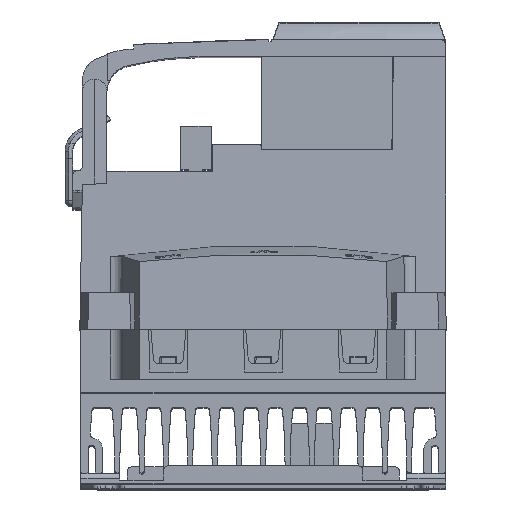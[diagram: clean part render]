
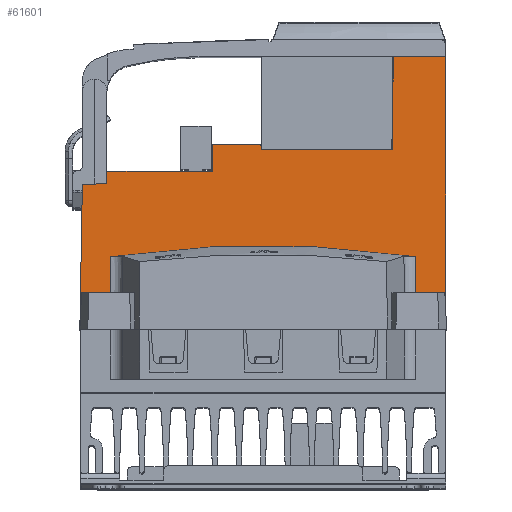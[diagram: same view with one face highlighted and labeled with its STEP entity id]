
A CAD part, top view. The second image highlights one B-rep face of the part: STEP entity #61601.
In plain terms, the highlighted planar face has unit normal (0, 0.018, 1).
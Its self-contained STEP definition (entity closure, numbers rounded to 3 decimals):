
#2428 = CARTESIAN_POINT ( 'NONE',  ( 0., -370.072, 131.297 ) ) ;
#2430 = DIRECTION ( 'NONE',  ( 0., -0.017, -1. ) ) ;
#2431 = DIRECTION ( 'NONE',  ( 0., -1., 0.017 ) ) ;
#33104 = AXIS2_PLACEMENT_3D ( 'NONE', #59970, #59973, #59976 ) ;
#33766 = ORIENTED_EDGE ( 'NONE', *, *, #104289, .T. ) ;
#33852 = ORIENTED_EDGE ( 'NONE', *, *, #104290, .T. ) ;
#35110 = VERTEX_POINT ( 'NONE', #43352 ) ;
#35284 = ORIENTED_EDGE ( 'NONE', *, *, #104295, .T. ) ;
#35353 = VERTEX_POINT ( 'NONE', #43527 ) ;
#35576 = ORIENTED_EDGE ( 'NONE', *, *, #104301, .T. ) ;
#35705 = ORIENTED_EDGE ( 'NONE', *, *, #104401, .T. ) ;
#35991 = VERTEX_POINT ( 'NONE', #43808 ) ;
#35997 = ORIENTED_EDGE ( 'NONE', *, *, #104315, .F. ) ;
#36075 = VERTEX_POINT ( 'NONE', #43823 ) ;
#36116 = ORIENTED_EDGE ( 'NONE', *, *, #104324, .T. ) ;
#36289 = ORIENTED_EDGE ( 'NONE', *, *, #104335, .F. ) ;
#43352 = CARTESIAN_POINT ( 'NONE',  ( -20.708, 100., 123.091 ) ) ;
#43527 = CARTESIAN_POINT ( 'NONE',  ( -64.371, 84., 123.371 ) ) ;
#43808 = CARTESIAN_POINT ( 'NONE',  ( -0.939, 100., 123.091 ) ) ;
#43823 = CARTESIAN_POINT ( 'NONE',  ( 53.531, 136.15, 122.46 ) ) ;
#43941 = CARTESIAN_POINT ( 'NONE',  ( -74.377, 83.651, 123.377 ) ) ;
#43960 = CARTESIAN_POINT ( 'NONE',  ( -20.9, 89., 123.283 ) ) ;
#43970 = CARTESIAN_POINT ( 'NONE',  ( -0.904, 98., 123.126 ) ) ;
#45103 = CARTESIAN_POINT ( 'NONE',  ( -64.627, 69.34, 123.627 ) ) ;
#45117 = CARTESIAN_POINT ( 'NONE',  ( -75.419, 23.95, 124.419 ) ) ;
#45122 = CARTESIAN_POINT ( 'NONE',  ( 60.373, 88.356, 123.295 ) ) ;
#45124 = DIRECTION ( 'NONE',  ( -0.999, -0.035, 0.001 ) ) ;
#45125 = DIRECTION ( 'NONE',  ( -0.017, -1., 0.017 ) ) ;
#45128 = CARTESIAN_POINT ( 'NONE',  ( -328.824, 89., 123.283 ) ) ;
#45130 = DIRECTION ( 'NONE',  ( -1., 0., 0. ) ) ;
#45132 = CARTESIAN_POINT ( 'NONE',  ( -21.256, 68.583, 123.64 ) ) ;
#45133 = DIRECTION ( 'NONE',  ( -0.017, -1., 0.017 ) ) ;
#45134 = CARTESIAN_POINT ( 'NONE',  ( -328.824, 100., 123.091 ) ) ;
#45135 = DIRECTION ( 'NONE',  ( -1., 0., 0. ) ) ;
#45136 = CARTESIAN_POINT ( 'NONE',  ( -0.584, 79.678, 123.446 ) ) ;
#45137 = DIRECTION ( 'NONE',  ( -0.017, 1., -0.017 ) ) ;
#45138 = CARTESIAN_POINT ( 'NONE',  ( -328.824, 98., 123.126 ) ) ;
#45139 = DIRECTION ( 'NONE',  ( -1., 0., 0. ) ) ;
#45140 = CARTESIAN_POINT ( 'NONE',  ( 52.329, 67.299, 123.662 ) ) ;
#45142 = DIRECTION ( 'NONE',  ( -0.017, -1., 0.017 ) ) ;
#45143 = CARTESIAN_POINT ( 'NONE',  ( -328.824, 136.15, 122.46 ) ) ;
#45146 = DIRECTION ( 'NONE',  ( 1., 0., 0. ) ) ;
#45151 = DIRECTION ( 'NONE',  ( -0.017, -1., 0.017 ) ) ;
#45187 = CARTESIAN_POINT ( 'NONE',  ( 75., 58.939, 123.808 ) ) ;
#45190 = DIRECTION ( 'NONE',  ( 0., -1., 0.017 ) ) ;
#45214 = CARTESIAN_POINT ( 'NONE',  ( 62.622, 23.95, 124.419 ) ) ;
#45215 = DIRECTION ( 'NONE',  ( 0., -1., 0.017 ) ) ;
#45244 = CARTESIAN_POINT ( 'NONE',  ( -62.622, 23.95, 124.419 ) ) ;
#45246 = DIRECTION ( 'NONE',  ( 0., -1., 0.017 ) ) ;
#45346 = CARTESIAN_POINT ( 'NONE',  ( 62.622, 24.15, 124.415 ) ) ;
#45347 = DIRECTION ( 'NONE',  ( 1., 0., 0. ) ) ;
#45348 = CARTESIAN_POINT ( 'NONE',  ( 62.622, 24.15, 124.415 ) ) ;
#45349 = DIRECTION ( 'NONE',  ( 1., 0., 0. ) ) ;
#45508 = ORIENTED_EDGE ( 'NONE', *, *, #104297, .T. ) ;
#45523 = ORIENTED_EDGE ( 'NONE', *, *, #104292, .T. ) ;
#45547 = VERTEX_POINT ( 'NONE', #43941 ) ;
#45656 = VERTEX_POINT ( 'NONE', #43960 ) ;
#45659 = ORIENTED_EDGE ( 'NONE', *, *, #104298, .F. ) ;
#45740 = VERTEX_POINT ( 'NONE', #43970 ) ;
#46202 = VERTEX_POINT ( 'NONE', #57865 ) ;
#46213 = VERTEX_POINT ( 'NONE', #57861 ) ;
#46326 = ORIENTED_EDGE ( 'NONE', *, *, #104379, .T. ) ;
#46351 = ORIENTED_EDGE ( 'NONE', *, *, #104287, .T. ) ;
#46358 = ORIENTED_EDGE ( 'NONE', *, *, #104288, .T. ) ;
#51767 = VERTEX_POINT ( 'NONE', #58624 ) ;
#51857 = VERTEX_POINT ( 'NONE', #58695 ) ;
#51892 = VERTEX_POINT ( 'NONE', #58737 ) ;
#52282 = VERTEX_POINT ( 'NONE', #58769 ) ;
#52351 = VERTEX_POINT ( 'NONE', #58812 ) ;
#52357 = ORIENTED_EDGE ( 'NONE', *, *, #104285, .T. ) ;
#52380 = VERTEX_POINT ( 'NONE', #58826 ) ;
#52488 = VERTEX_POINT ( 'NONE', #58895 ) ;
#52632 = ORIENTED_EDGE ( 'NONE', *, *, #104567, .T. ) ;
#57861 = CARTESIAN_POINT ( 'NONE',  ( 75., 136.15, 122.46 ) ) ;
#57865 = CARTESIAN_POINT ( 'NONE',  ( -64.283, 89., 123.283 ) ) ;
#58624 = CARTESIAN_POINT ( 'NONE',  ( 62.622, 53.951, 123.895 ) ) ;
#58695 = CARTESIAN_POINT ( 'NONE',  ( -62.622, 24.15, 124.415 ) ) ;
#58737 = CARTESIAN_POINT ( 'NONE',  ( -62.622, 53.951, 123.895 ) ) ;
#58769 = CARTESIAN_POINT ( 'NONE',  ( -75.415, 24.15, 124.415 ) ) ;
#58812 = CARTESIAN_POINT ( 'NONE',  ( 62.622, 24.15, 124.415 ) ) ;
#58826 = CARTESIAN_POINT ( 'NONE',  ( 75., 24.15, 124.415 ) ) ;
#58895 = CARTESIAN_POINT ( 'NONE',  ( 52.865, 98., 123.126 ) ) ;
#59950 = PLANE ( 'NONE',  #33104 ) ;
#59970 = CARTESIAN_POINT ( 'NONE',  ( 62.622, 23.95, 124.419 ) ) ;
#59973 = DIRECTION ( 'NONE',  ( 0., 0.017, 1. ) ) ;
#59976 = DIRECTION ( 'NONE',  ( 0., 1., -0.017 ) ) ;
#61601 = ADVANCED_FACE ( 'NONE', ( #98551 ), #59950, .T. ) ;
#69110 = AXIS2_PLACEMENT_3D ( 'NONE', #2428, #2430, #2431 ) ;
#77073 = EDGE_LOOP ( 'NONE', ( #35576, #46326, #36289, #52632, #36116, #35705, #35997, #45659, #45508, #35284, #45523, #33852, #33766, #46358, #46351, #52357 ) ) ;
#98551 = FACE_OUTER_BOUND ( 'NONE', #77073, .T. ) ;
#104285 = EDGE_CURVE ( 'NONE', #35353, #45547, #112384, .T. ) ;
#104287 = EDGE_CURVE ( 'NONE', #46202, #35353, #112376, .T. ) ;
#104288 = EDGE_CURVE ( 'NONE', #45656, #46202, #112391, .T. ) ;
#104289 = EDGE_CURVE ( 'NONE', #35110, #45656, #112395, .T. ) ;
#104290 = EDGE_CURVE ( 'NONE', #35991, #35110, #112400, .T. ) ;
#104292 = EDGE_CURVE ( 'NONE', #45740, #35991, #112406, .T. ) ;
#104295 = EDGE_CURVE ( 'NONE', #52488, #45740, #112412, .T. ) ;
#104297 = EDGE_CURVE ( 'NONE', #36075, #52488, #112416, .T. ) ;
#104298 = EDGE_CURVE ( 'NONE', #36075, #46213, #112419, .T. ) ;
#104301 = EDGE_CURVE ( 'NONE', #45547, #52282, #112388, .T. ) ;
#104315 = EDGE_CURVE ( 'NONE', #46213, #52380, #112487, .T. ) ;
#104324 = EDGE_CURVE ( 'NONE', #51767, #52351, #112522, .T. ) ;
#104335 = EDGE_CURVE ( 'NONE', #51892, #51857, #112567, .T. ) ;
#104379 = EDGE_CURVE ( 'NONE', #52282, #51857, #112764, .T. ) ;
#104401 = EDGE_CURVE ( 'NONE', #52351, #52380, #112860, .T. ) ;
#104567 = EDGE_CURVE ( 'NONE', #51892, #51767, #112879, .T. ) ;
#112376 = LINE ( 'NONE', #45103, #112393 ) ;
#112384 = LINE ( 'NONE', #45122, #112390 ) ;
#112388 = LINE ( 'NONE', #45117, #112432 ) ;
#112390 = VECTOR ( 'NONE', #45124, 1000. ) ;
#112391 = LINE ( 'NONE', #45128, #112397 ) ;
#112393 = VECTOR ( 'NONE', #45125, 1000. ) ;
#112395 = LINE ( 'NONE', #45132, #112403 ) ;
#112397 = VECTOR ( 'NONE', #45130, 1000. ) ;
#112400 = LINE ( 'NONE', #45134, #112409 ) ;
#112403 = VECTOR ( 'NONE', #45133, 1000. ) ;
#112406 = LINE ( 'NONE', #45136, #112414 ) ;
#112409 = VECTOR ( 'NONE', #45135, 1000. ) ;
#112412 = LINE ( 'NONE', #45138, #112417 ) ;
#112414 = VECTOR ( 'NONE', #45137, 1000. ) ;
#112416 = LINE ( 'NONE', #45140, #112421 ) ;
#112417 = VECTOR ( 'NONE', #45139, 1000. ) ;
#112419 = LINE ( 'NONE', #45143, #112425 ) ;
#112421 = VECTOR ( 'NONE', #45142, 1000. ) ;
#112425 = VECTOR ( 'NONE', #45146, 1000. ) ;
#112432 = VECTOR ( 'NONE', #45151, 1000. ) ;
#112487 = LINE ( 'NONE', #45187, #112492 ) ;
#112492 = VECTOR ( 'NONE', #45190, 1000. ) ;
#112522 = LINE ( 'NONE', #45214, #112528 ) ;
#112528 = VECTOR ( 'NONE', #45215, 1000. ) ;
#112567 = LINE ( 'NONE', #45244, #112575 ) ;
#112575 = VECTOR ( 'NONE', #45246, 1000. ) ;
#112764 = LINE ( 'NONE', #45346, #112769 ) ;
#112769 = VECTOR ( 'NONE', #45347, 1000. ) ;
#112860 = LINE ( 'NONE', #45348, #112866 ) ;
#112866 = VECTOR ( 'NONE', #45349, 1000. ) ;
#112879 = CIRCLE ( 'NONE', #69110, 428.686 ) ;
